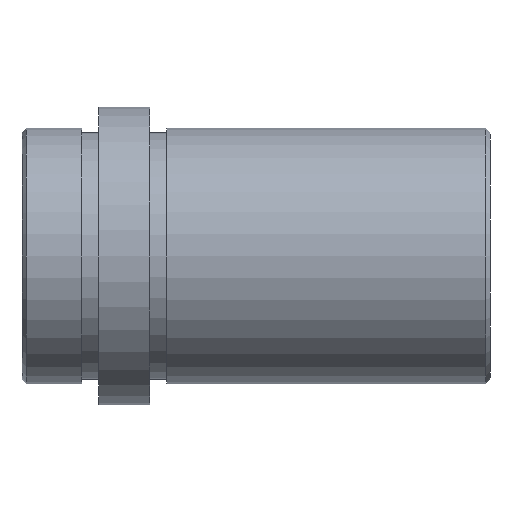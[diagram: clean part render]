
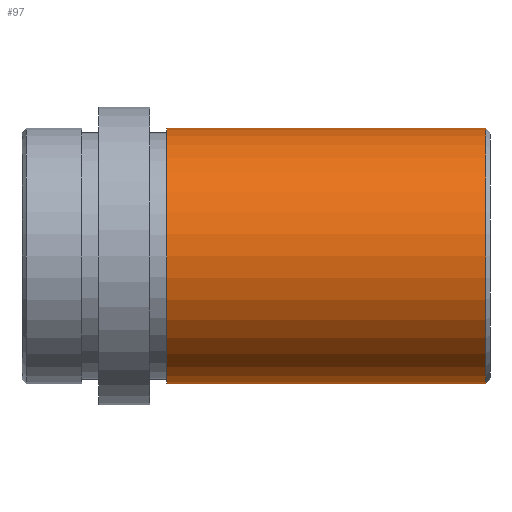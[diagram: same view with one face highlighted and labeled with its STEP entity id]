
A CAD part, front view. The second image highlights one B-rep face of the part: STEP entity #97.
In plain terms, the highlighted face is a revolution surface.
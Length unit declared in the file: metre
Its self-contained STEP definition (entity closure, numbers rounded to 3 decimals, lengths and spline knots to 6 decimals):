
#97 = ADVANCED_FACE( '', ( #149 ), #150, .F. );
#149 = FACE_OUTER_BOUND( '', #235, .T. );
#150 = SURFACE_OF_REVOLUTION( '', #236, #237 );
#235 = EDGE_LOOP( '', ( #403, #404, #405, #406 ) );
#236 = B_SPLINE_CURVE_WITH_KNOTS( '', 1, ( #407, #408 ), .UNSPECIFIED., .F., .F., ( 2, 2 ), ( -10000., 10000. ), .UNSPECIFIED. );
#237 = AXIS1_PLACEMENT( '', #409, #410 );
#403 = ORIENTED_EDGE( '', *, *, #482, .T. );
#404 = ORIENTED_EDGE( '', *, *, #485, .T. );
#405 = ORIENTED_EDGE( '', *, *, #489, .F. );
#406 = ORIENTED_EDGE( '', *, *, #483, .T. );
#407 = CARTESIAN_POINT( '', ( 10000.0545, 0., 0.015 ) );
#408 = CARTESIAN_POINT( '', ( -9999.9455, 0., 0.015 ) );
#409 = CARTESIAN_POINT( '', ( 0., 0., 0. ) );
#410 = DIRECTION( '', ( 1., 0., 0. ) );
#482 = EDGE_CURVE( '', #552, #554, #560, .T. );
#483 = EDGE_CURVE( '', #561, #552, #562, .F. );
#485 = EDGE_CURVE( '', #554, #563, #565, .T. );
#489 = EDGE_CURVE( '', #561, #563, #571, .T. );
#552 = VERTEX_POINT( '', #646 );
#554 = VERTEX_POINT( '', #649 );
#560 = CIRCLE( '', #658, 0.015 );
#561 = VERTEX_POINT( '', #659 );
#562 = LINE( '', #660, #661 );
#563 = VERTEX_POINT( '', #662 );
#565 = LINE( '', #664, #665 );
#571 = CIRCLE( '', #673, 0.015 );
#646 = CARTESIAN_POINT( '', ( 0.0545, 0., -0.015 ) );
#649 = CARTESIAN_POINT( '', ( 0.0545, 0., 0.015 ) );
#658 = AXIS2_PLACEMENT_3D( '', #772, #773, #774 );
#659 = CARTESIAN_POINT( '', ( 0.017, 0., -0.015 ) );
#660 = CARTESIAN_POINT( '', ( 0.0545, 0., -0.015 ) );
#661 = VECTOR( '', #775, 1. );
#662 = CARTESIAN_POINT( '', ( 0.017, 0., 0.015 ) );
#664 = CARTESIAN_POINT( '', ( 0.0545, 0., 0.015 ) );
#665 = VECTOR( '', #779, 1. );
#673 = AXIS2_PLACEMENT_3D( '', #785, #786, #787 );
#772 = CARTESIAN_POINT( '', ( 0.0545, 0., 0. ) );
#773 = DIRECTION( '', ( -1., 0., 0. ) );
#774 = DIRECTION( '', ( 0., 0., 1. ) );
#775 = DIRECTION( '', ( -1., 0., 0. ) );
#779 = DIRECTION( '', ( -1., 0., 0. ) );
#785 = CARTESIAN_POINT( '', ( 0.017, 0., 0. ) );
#786 = DIRECTION( '', ( -1., 0., 0. ) );
#787 = DIRECTION( '', ( 0., 0., 1. ) );
